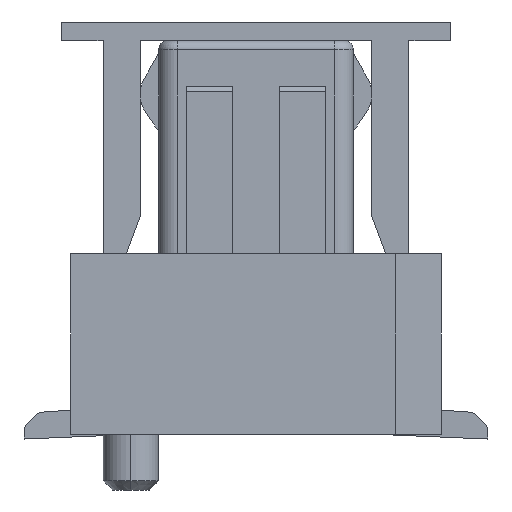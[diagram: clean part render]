
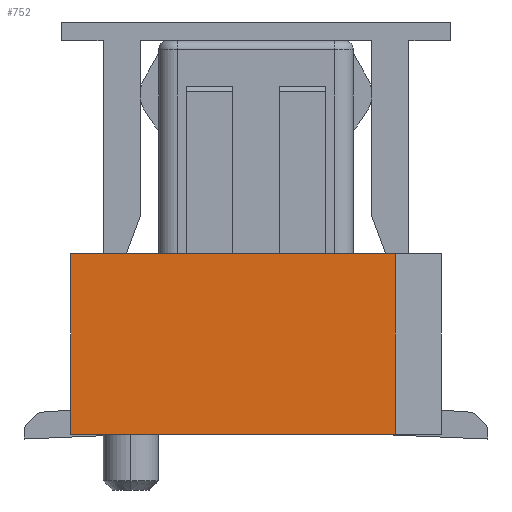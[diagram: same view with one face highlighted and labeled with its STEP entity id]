
A CAD part, left-side view. The second image highlights one B-rep face of the part: STEP entity #752.
In plain terms, the highlighted planar face has unit normal (-1, 0, 0).
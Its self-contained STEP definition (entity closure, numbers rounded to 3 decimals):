
#713=CARTESIAN_POINT('Axis2P3D Location',(-4.95,0.,0.)) ;
#718=CARTESIAN_POINT('Line Origine',(-4.95,-1.5,0.975)) ;
#722=CARTESIAN_POINT('Vertex',(-4.95,-1.5,1.95)) ;
#724=CARTESIAN_POINT('Vertex',(-4.95,-1.5,0.)) ;
#727=CARTESIAN_POINT('Line Origine',(-4.95,0.25,1.95)) ;
#731=CARTESIAN_POINT('Vertex',(-4.95,2.,1.95)) ;
#734=CARTESIAN_POINT('Line Origine',(-4.95,2.,0.975)) ;
#738=CARTESIAN_POINT('Vertex',(-4.95,2.,0.)) ;
#741=CARTESIAN_POINT('Line Origine',(-4.95,0.25,0.)) ;
#714=DIRECTION('Axis2P3D Direction',(1.,0.,0.)) ;
#715=DIRECTION('Axis2P3D XDirection',(0.,1.,0.)) ;
#719=DIRECTION('Vector Direction',(0.,0.,1.)) ;
#728=DIRECTION('Vector Direction',(0.,1.,0.)) ;
#735=DIRECTION('Vector Direction',(0.,0.,1.)) ;
#742=DIRECTION('Vector Direction',(0.,-1.,0.)) ;
#716=AXIS2_PLACEMENT_3D('Plane Axis2P3D',#713,#714,#715) ;
#747=ORIENTED_EDGE('',*,*,#726,.F.) ;
#748=ORIENTED_EDGE('',*,*,#733,.F.) ;
#749=ORIENTED_EDGE('',*,*,#740,.F.) ;
#750=ORIENTED_EDGE('',*,*,#745,.F.) ;
#720=VECTOR('Line Direction',#719,1.) ;
#729=VECTOR('Line Direction',#728,1.) ;
#736=VECTOR('Line Direction',#735,1.) ;
#743=VECTOR('Line Direction',#742,1.) ;
#752=ADVANCED_FACE('\X2\96F64EF651E04F554F53\X0\',(#751),#717,.F.) ;
#726=EDGE_CURVE('',#723,#725,#721,.F.) ;
#733=EDGE_CURVE('',#732,#723,#730,.F.) ;
#740=EDGE_CURVE('',#739,#732,#737,.T.) ;
#745=EDGE_CURVE('',#725,#739,#744,.F.) ;
#746=EDGE_LOOP('',(#747,#748,#749,#750)) ;
#751=FACE_OUTER_BOUND('',#746,.T.) ;
#721=LINE('Line',#718,#720) ;
#730=LINE('Line',#727,#729) ;
#737=LINE('Line',#734,#736) ;
#744=LINE('Line',#741,#743) ;
#717=PLANE('Plane',#716) ;
#723=VERTEX_POINT('',#722) ;
#725=VERTEX_POINT('',#724) ;
#732=VERTEX_POINT('',#731) ;
#739=VERTEX_POINT('',#738) ;
